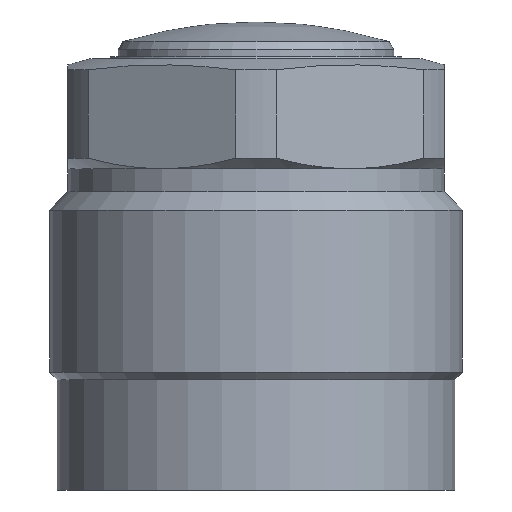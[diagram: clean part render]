
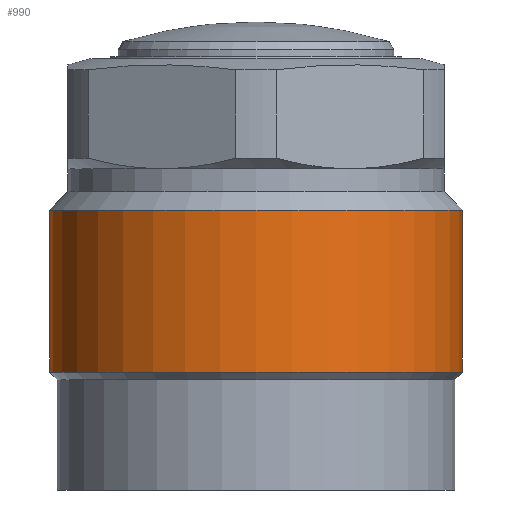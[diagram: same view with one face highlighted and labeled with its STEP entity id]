
A CAD part, front view. The second image highlights one B-rep face of the part: STEP entity #990.
In plain terms, the highlighted cylindrical face has radius 22.5 mm (diameter 45 mm), a partial arc.
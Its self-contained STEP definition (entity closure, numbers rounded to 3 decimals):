
#927=CARTESIAN_POINT('',(-22.5,0.0,-34.15));
#928=VERTEX_POINT('',#927);
#936=CARTESIAN_POINT('',(22.5,0.0,-34.15));
#937=VERTEX_POINT('',#936);
#944=CARTESIAN_POINT('',(0.0,0.0,-34.15));
#945=DIRECTION('',(0.0,0.0,1.0));
#946=DIRECTION('',(1.0,0.0,0.0));
#947=AXIS2_PLACEMENT_3D('',#944,#945,#946);
#948=CIRCLE('',#947,22.5);
#949=EDGE_CURVE('no 1451',#928,#937,#948,.T.);
#959=CARTESIAN_POINT('',(-22.5,0.0,-16.5));
#960=VERTEX_POINT('',#959);
#961=CARTESIAN_POINT('',(-22.5,0.0,-34.15));
#962=DIRECTION('',(0.0,-0.0,1.0));
#963=VECTOR('',#962,1.0);
#964=LINE('',#961,#963);
#965=EDGE_CURVE('no 1461',#928,#960,#964,.T.);
#966=ORIENTED_EDGE('',*,*,#965,.F.);
#967=ORIENTED_EDGE('',*,*,#949,.T.);
#968=CARTESIAN_POINT('',(22.5,0.0,-16.5));
#969=VERTEX_POINT('',#968);
#970=CARTESIAN_POINT('',(22.5,0.0,-34.15));
#971=DIRECTION('',(0.0,0.0,1.0));
#972=VECTOR('',#971,1.0);
#973=LINE('',#970,#972);
#974=EDGE_CURVE('no 1469',#937,#969,#973,.T.);
#975=ORIENTED_EDGE('',*,*,#974,.T.);
#976=CARTESIAN_POINT('',(0.0,0.0,-16.5));
#977=DIRECTION('',(0.0,0.0,1.0));
#978=DIRECTION('',(1.0,0.0,0.0));
#979=AXIS2_PLACEMENT_3D('',#976,#977,#978);
#980=CIRCLE('',#979,22.5);
#981=EDGE_CURVE('no 1473',#960,#969,#980,.T.);
#982=ORIENTED_EDGE('',*,*,#981,.F.);
#983=EDGE_LOOP('',(#966,#967,#975,#982));
#984=FACE_OUTER_BOUND('',#983,.T.);
#985=CARTESIAN_POINT('',(0.0,0.0,5.219));
#986=DIRECTION('',(0.0,0.0,1.0));
#987=DIRECTION('',(0.0,1.0,0.0));
#988=AXIS2_PLACEMENT_3D('',#985,#986,#987);
#989=CYLINDRICAL_SURFACE('',#988,22.5);
#990=ADVANCED_FACE('no 1454',(#984),#989,.T.);
